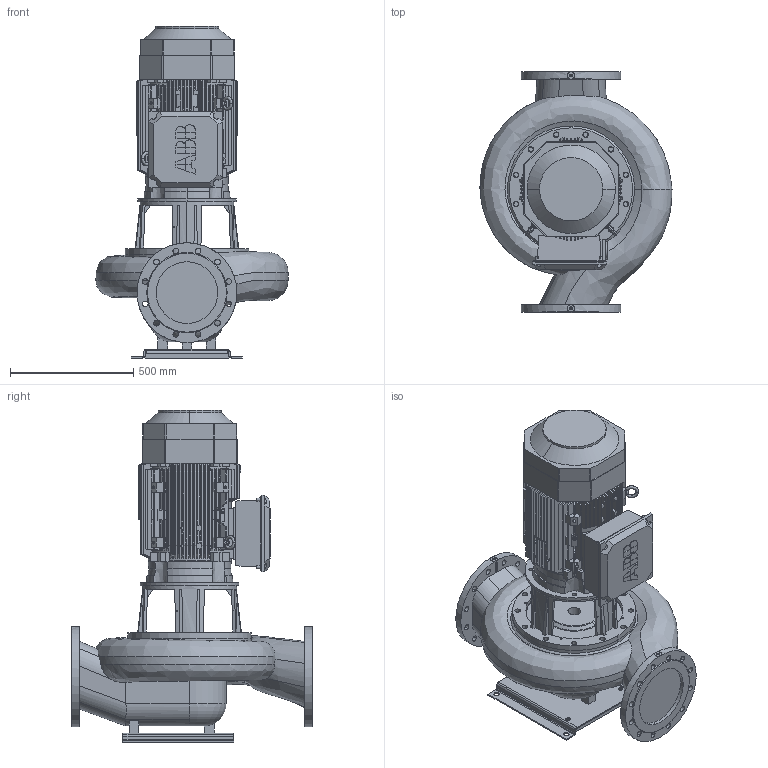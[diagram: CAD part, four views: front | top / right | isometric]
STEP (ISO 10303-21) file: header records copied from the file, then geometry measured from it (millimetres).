
FILE_DESCRIPTION(('STEP AP214'),'1');
FILE_NAME('export.stp','2018-05-30T06:26:33',(' '),(' '),'Spatial InterOp 3D',' ',' ');
FILE_SCHEMA(('AUTOMOTIVE_DESIGN { 1 0 10303 214 1 1 1 1 }'));
Length unit declared in the file: millimetre
Products named in the file (19): W_AL12506SD220; V_TLL125SAL1250; V_PPAL1250; P100464; P100462; P101191; P100935; IEC-200; -simplified-simplified_parts_Sta; 3GZV183002-193006-183002-183999_; 3GZV311000-999999-324000-324001_; -simplified-simplified_parts_Ter; 3GZV244000-310999-294000-299999_; -simplified-simplified_parts_M32; -simplified-simplified_parts_Fan; Implementation-STANDARD_PARTS_Li
Assembly tree (20 placements, depth 3):
  W_AL12506SD220
    V_TLL125SAL1250
    V_PPAL1250
    P100464
      P100462
      P101191  x2
    P100935
    IEC-200
      -simplified-simplified_parts_Sta
      3GZV183002-193006-183002-183999_
      3GZV311000-999999-324000-324001_
      -simplified-simplified_parts_Ter
      -simplified-simplified_parts_Ter
      3GZV244000-310999-294000-299999_
      3GZV244000-310999-294000-299999_
      3GZV244000-310999-294000-299999_
      -simplified-simplified_parts_M32
      -simplified-simplified_parts_Fan
      Implementation-STANDARD_PARTS_Li  x2
Bounding box: 779.08 x 980 x 1346.57 mm (x, y, z)
Volume: 201895976.6 mm3; surface area: 7656098.8 mm2
Topology: 13 solids, 262 shells, 2182 faces, 6599 edges, 4704 vertices
Faces by surface type: bspline 1738, cylinder 251, plane 144, cone 44, torus 5
Entity records: 117439 total; most frequent: CARTESIAN_POINT 38392, ORIENTED_EDGE 11596, STYLED_ITEM 6588, PRESENTATION_STYLE_ASSIGNMENT 6588, COLOUR_RGB 6588, EDGE_CURVE 6334, VERTEX_POINT 4502, CURVE_STYLE 4457
